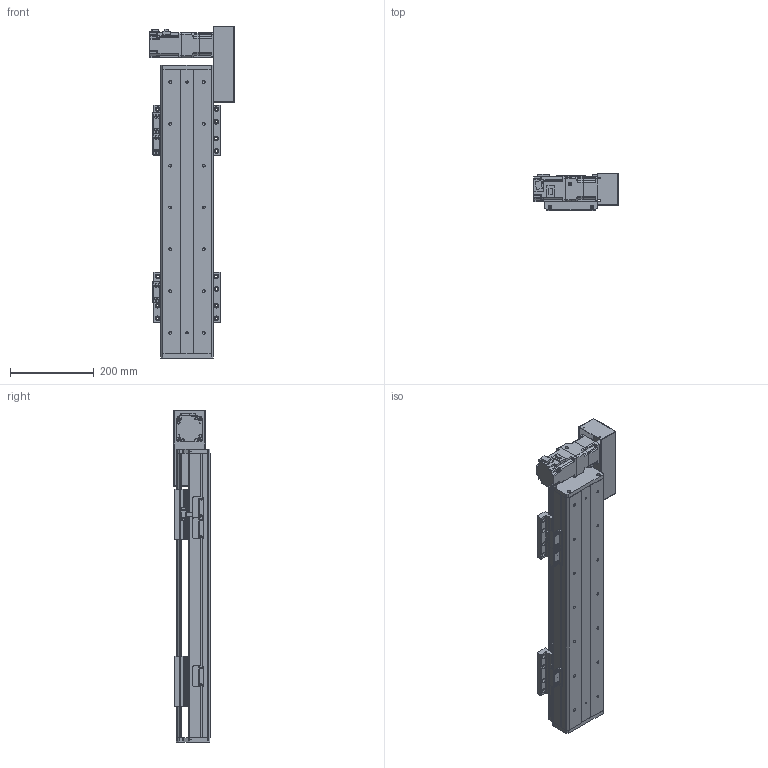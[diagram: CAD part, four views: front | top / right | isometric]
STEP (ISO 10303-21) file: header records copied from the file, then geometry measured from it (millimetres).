
FILE_DESCRIPTION(/* description */ (''),/* implementation_level */ '2;1');
FILE_NAME(/* name */ 'C:\Users\PC\Desktop\3D도면\STEP\STEP\DSB125-R2G-W0400-L.stp',/* time_stamp */ '2018-06-13T14:04:13+09:00',/* author */ ('PC'),/* organization */ (''),/* preprocessor_version */ 'ST-DEVELOPER v16.5',/* originating_system */ 'Autodesk Inventor 2017',/* authorisation */ '');
FILE_SCHEMA (('AUTOMOTIVE_DESIGN { 1 0 10303 214 3 1 1 }'));
Length unit declared in the file: millimetre
Products named in the file (12): DSB125-L2G-W0400-R_MIR; DSB125-BASE_MIR; DSB125-FRONT COVER_MIR; DSB125-REAR COVER_MIR; DSB125-UP COVER_MIR; DSB125-TABLE(MSB15S)_MIR; hg-kr23__MIR; ab0601-p0401200402_MIR; 13-BELT COVER_MIR; DSR125-SENSOR DOG_MIR; pm-y65_step_MIR; SENSOR BRACKET(EE-SX674A)_MIR
Assembly tree (16 placements, depth 2):
  DSB125-L2G-W0400-R_MIR
    DSB125-BASE_MIR
    DSB125-FRONT COVER_MIR
    DSB125-REAR COVER_MIR
    DSB125-UP COVER_MIR
    DSB125-TABLE(MSB15S)_MIR  x2
    hg-kr23__MIR
    ab0601-p0401200402_MIR
    13-BELT COVER_MIR
    DSR125-SENSOR DOG_MIR
    pm-y65_step_MIR  x3
    SENSOR BRACKET(EE-SX674A)_MIR  x3
Bounding box: 202.1 x 88 x 794 mm (x, y, z)
Volume: 3135847.2 mm3; surface area: 906723.9 mm2
Topology: 17 solids, 17 shells, 1639 faces, 4450 edges, 2936 vertices
Faces by surface type: plane 903, cylinder 620, cone 104, sphere 8, torus 4
Full cylindrical faces by diameter (mm): 2.459 x20, 3.242 x16, 3.5 x6, 4 x1, 4.134 x16, 4.2 x4, 4.3 x1, 4.5 x50, 4.917 x20, 5 x22, 5.3 x1, 5.5 x4, 5.6 x8, 5.8 x4, 5.9 x8, 6 x4, 6.6 x22, 6.647 x14, 7.5 x32, 8.5 x8, 8.7 x1, 11 x22, 14 x1, 16 x2, 17 x1, 20 x1, 47 x1, 50 x3
Entity records: 35549 total; most frequent: CARTESIAN_POINT 6423, DIRECTION 6026, ORIENTED_EDGE 5434, EDGE_CURVE 2717, AXIS2_PLACEMENT_3D 2201, VERTEX_POINT 1926, EDGE_LOOP 1629, LINE 1624
